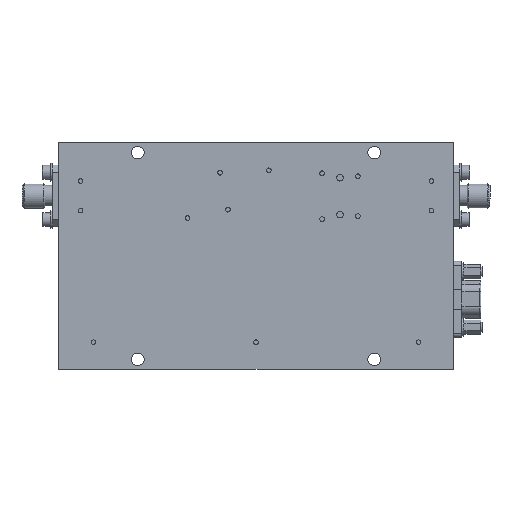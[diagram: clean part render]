
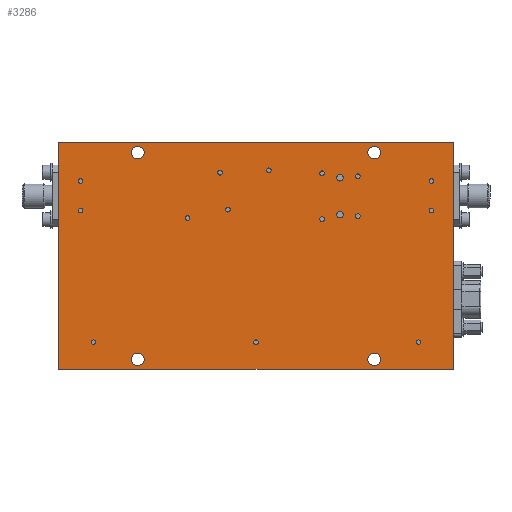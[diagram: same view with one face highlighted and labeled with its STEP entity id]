
A CAD part, front view. The second image highlights one B-rep face of the part: STEP entity #3286.
In plain terms, the highlighted planar face has unit normal (0, -1, 0).
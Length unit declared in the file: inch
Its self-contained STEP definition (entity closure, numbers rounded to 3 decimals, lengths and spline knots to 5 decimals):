
#124=CARTESIAN_POINT('',(3.7565,0.0,1.91));
#125=VERTEX_POINT('',#124);
#126=CARTESIAN_POINT('',(3.78,0.0,1.91));
#127=DIRECTION('',(0.0,1.0,0.0));
#128=DIRECTION('',(1.0,0.0,0.0));
#129=AXIS2_PLACEMENT_3D('',#126,#127,#128);
#130=CIRCLE('',#129,0.0235);
#131=EDGE_CURVE('',#125,#125,#130,.T.);
#152=CARTESIAN_POINT('',(3.0115,0.0,1.555));
#153=VERTEX_POINT('',#152);
#154=CARTESIAN_POINT('',(3.035,0.0,1.555));
#155=DIRECTION('',(0.0,1.0,0.0));
#156=DIRECTION('',(1.0,0.0,0.0));
#157=AXIS2_PLACEMENT_3D('',#154,#155,#156);
#158=CIRCLE('',#157,0.0235);
#159=EDGE_CURVE('',#153,#153,#158,.T.);
#180=CARTESIAN_POINT('',(2.6465,0.0,1.99));
#181=VERTEX_POINT('',#180);
#182=CARTESIAN_POINT('',(2.67,0.0,1.99));
#183=DIRECTION('',(0.0,1.0,0.0));
#184=DIRECTION('',(1.0,0.0,0.0));
#185=AXIS2_PLACEMENT_3D('',#182,#183,#184);
#186=CIRCLE('',#185,0.0235);
#187=EDGE_CURVE('',#181,#181,#186,.T.);
#208=CARTESIAN_POINT('',(1.6115,0.0,1.995));
#209=VERTEX_POINT('',#208);
#210=CARTESIAN_POINT('',(1.635,0.0,1.995));
#211=DIRECTION('',(0.0,1.0,0.0));
#212=DIRECTION('',(1.0,0.0,0.0));
#213=AXIS2_PLACEMENT_3D('',#210,#211,#212);
#214=CIRCLE('',#213,0.0235);
#215=EDGE_CURVE('',#209,#209,#214,.T.);
#236=CARTESIAN_POINT('',(1.2815,0.0,1.535));
#237=VERTEX_POINT('',#236);
#238=CARTESIAN_POINT('',(1.305,0.0,1.535));
#239=DIRECTION('',(0.0,1.0,0.0));
#240=DIRECTION('',(1.0,0.0,0.0));
#241=AXIS2_PLACEMENT_3D('',#238,#239,#240);
#242=CIRCLE('',#241,0.0235);
#243=EDGE_CURVE('',#237,#237,#242,.T.);
#264=CARTESIAN_POINT('',(0.1965,0.0,1.61));
#265=VERTEX_POINT('',#264);
#266=CARTESIAN_POINT('',(0.22,0.0,1.61));
#267=DIRECTION('',(0.0,1.0,0.0));
#268=DIRECTION('',(1.0,0.0,0.0));
#269=AXIS2_PLACEMENT_3D('',#266,#267,#268);
#270=CIRCLE('',#269,0.0235);
#271=EDGE_CURVE('',#265,#265,#270,.T.);
#292=CARTESIAN_POINT('',(1.9765,0.0,0.275));
#293=VERTEX_POINT('',#292);
#294=CARTESIAN_POINT('',(2.,0.0,0.275));
#295=DIRECTION('',(0.0,1.0,0.0));
#296=DIRECTION('',(1.0,0.0,0.0));
#297=AXIS2_PLACEMENT_3D('',#294,#295,#296);
#298=CIRCLE('',#297,0.0235);
#299=EDGE_CURVE('',#293,#293,#298,.T.);
#320=CARTESIAN_POINT('',(0.1965,0.0,1.91));
#321=VERTEX_POINT('',#320);
#322=CARTESIAN_POINT('',(0.22,0.0,1.91));
#323=DIRECTION('',(0.0,1.0,0.0));
#324=DIRECTION('',(1.0,0.0,0.0));
#325=AXIS2_PLACEMENT_3D('',#322,#323,#324);
#326=CIRCLE('',#325,0.0235);
#327=EDGE_CURVE('',#321,#321,#326,.T.);
#348=CARTESIAN_POINT('',(1.6915,0.0,1.62));
#349=VERTEX_POINT('',#348);
#350=CARTESIAN_POINT('',(1.715,0.0,1.62));
#351=DIRECTION('',(0.0,1.0,0.0));
#352=DIRECTION('',(1.0,0.0,0.0));
#353=AXIS2_PLACEMENT_3D('',#350,#351,#352);
#354=CIRCLE('',#353,0.0235);
#355=EDGE_CURVE('',#349,#349,#354,.T.);
#376=CARTESIAN_POINT('',(2.1065,0.0,2.02));
#377=VERTEX_POINT('',#376);
#378=CARTESIAN_POINT('',(2.13,0.0,2.02));
#379=DIRECTION('',(0.0,1.0,0.0));
#380=DIRECTION('',(1.0,0.0,0.0));
#381=AXIS2_PLACEMENT_3D('',#378,#379,#380);
#382=CIRCLE('',#381,0.0235);
#383=EDGE_CURVE('',#377,#377,#382,.T.);
#404=CARTESIAN_POINT('',(2.6465,0.0,1.525));
#405=VERTEX_POINT('',#404);
#406=CARTESIAN_POINT('',(2.67,0.0,1.525));
#407=DIRECTION('',(0.0,1.0,0.0));
#408=DIRECTION('',(1.0,0.0,0.0));
#409=AXIS2_PLACEMENT_3D('',#406,#407,#408);
#410=CIRCLE('',#409,0.0235);
#411=EDGE_CURVE('',#405,#405,#410,.T.);
#432=CARTESIAN_POINT('',(3.0115,0.0,1.96));
#433=VERTEX_POINT('',#432);
#434=CARTESIAN_POINT('',(3.035,0.0,1.96));
#435=DIRECTION('',(0.0,1.0,0.0));
#436=DIRECTION('',(1.0,0.0,0.0));
#437=AXIS2_PLACEMENT_3D('',#434,#435,#436);
#438=CIRCLE('',#437,0.0235);
#439=EDGE_CURVE('',#433,#433,#438,.T.);
#460=CARTESIAN_POINT('',(3.7565,0.0,1.61));
#461=VERTEX_POINT('',#460);
#462=CARTESIAN_POINT('',(3.78,0.0,1.61));
#463=DIRECTION('',(0.0,1.0,0.0));
#464=DIRECTION('',(1.0,0.0,0.0));
#465=AXIS2_PLACEMENT_3D('',#462,#463,#464);
#466=CIRCLE('',#465,0.0235);
#467=EDGE_CURVE('',#461,#461,#466,.T.);
#488=CARTESIAN_POINT('',(3.13517,0.0,2.2));
#489=VERTEX_POINT('',#488);
#490=CARTESIAN_POINT('',(3.19967,0.0,2.2));
#491=DIRECTION('',(0.0,1.0,0.0));
#492=DIRECTION('',(1.0,0.0,0.0));
#493=AXIS2_PLACEMENT_3D('',#490,#491,#492);
#494=CIRCLE('',#493,0.0645);
#495=EDGE_CURVE('',#489,#489,#494,.T.);
#516=CARTESIAN_POINT('',(0.73583,0.0,0.1));
#517=VERTEX_POINT('',#516);
#518=CARTESIAN_POINT('',(0.80033,0.0,0.1));
#519=DIRECTION('',(0.0,1.0,0.0));
#520=DIRECTION('',(1.0,0.0,0.0));
#521=AXIS2_PLACEMENT_3D('',#518,#519,#520);
#522=CIRCLE('',#521,0.0645);
#523=EDGE_CURVE('',#517,#517,#522,.T.);
#544=CARTESIAN_POINT('',(3.13517,0.0,0.1));
#545=VERTEX_POINT('',#544);
#546=CARTESIAN_POINT('',(3.19967,0.0,0.1));
#547=DIRECTION('',(0.0,1.0,0.0));
#548=DIRECTION('',(1.0,0.0,0.0));
#549=AXIS2_PLACEMENT_3D('',#546,#547,#548);
#550=CIRCLE('',#549,0.0645);
#551=EDGE_CURVE('',#545,#545,#550,.T.);
#572=CARTESIAN_POINT('',(0.73583,0.0,2.2));
#573=VERTEX_POINT('',#572);
#574=CARTESIAN_POINT('',(0.80033,0.0,2.2));
#575=DIRECTION('',(0.0,1.0,0.0));
#576=DIRECTION('',(1.0,0.0,0.0));
#577=AXIS2_PLACEMENT_3D('',#574,#575,#576);
#578=CIRCLE('',#577,0.0645);
#579=EDGE_CURVE('',#573,#573,#578,.T.);
#2369=CARTESIAN_POINT('',(0.0,0.0,0.0));
#2370=VERTEX_POINT('',#2369);
#2377=CARTESIAN_POINT('',(0.,0.0,2.3));
#2378=VERTEX_POINT('',#2377);
#2379=CARTESIAN_POINT('',(0.,0.0,2.3));
#2380=DIRECTION('',(0.0,0.0,-1.0));
#2381=VECTOR('',#2380,2.3);
#2382=LINE('',#2379,#2381);
#2383=EDGE_CURVE('',#2378,#2370,#2382,.T.);
#2409=CARTESIAN_POINT('',(4.,0.0,0.0));
#2410=VERTEX_POINT('',#2409);
#2417=CARTESIAN_POINT('',(0.0,0.0,0.0));
#2418=DIRECTION('',(1.0,0.0,0.0));
#2419=VECTOR('',#2418,4.);
#2420=LINE('',#2417,#2419);
#2421=EDGE_CURVE('',#2370,#2410,#2420,.T.);
#2432=CARTESIAN_POINT('',(2.81844,0.0,1.5695));
#2433=VERTEX_POINT('',#2432);
#2434=CARTESIAN_POINT('',(2.85194,0.0,1.5695));
#2435=DIRECTION('',(0.0,1.0,0.0));
#2436=DIRECTION('',(1.0,0.0,0.0));
#2437=AXIS2_PLACEMENT_3D('',#2434,#2435,#2436);
#2438=CIRCLE('',#2437,0.0335);
#2439=EDGE_CURVE('',#2433,#2433,#2438,.T.);
#2460=CARTESIAN_POINT('',(2.81844,0.0,1.9445));
#2461=VERTEX_POINT('',#2460);
#2462=CARTESIAN_POINT('',(2.85194,0.0,1.9445));
#2463=DIRECTION('',(0.0,1.0,0.0));
#2464=DIRECTION('',(1.0,0.0,0.0));
#2465=AXIS2_PLACEMENT_3D('',#2462,#2463,#2464);
#2466=CIRCLE('',#2465,0.0335);
#2467=EDGE_CURVE('',#2461,#2461,#2466,.T.);
#3111=CARTESIAN_POINT('',(0.3265,0.0,0.275));
#3112=VERTEX_POINT('',#3111);
#3113=CARTESIAN_POINT('',(0.35,0.0,0.275));
#3114=DIRECTION('',(0.0,1.0,0.0));
#3115=DIRECTION('',(1.0,0.0,0.0));
#3116=AXIS2_PLACEMENT_3D('',#3113,#3114,#3115);
#3117=CIRCLE('',#3116,0.0235);
#3118=EDGE_CURVE('',#3112,#3112,#3117,.T.);
#3131=CARTESIAN_POINT('',(3.6265,0.0,0.275));
#3132=VERTEX_POINT('',#3131);
#3133=CARTESIAN_POINT('',(3.65,0.0,0.275));
#3134=DIRECTION('',(0.0,1.0,0.0));
#3135=DIRECTION('',(1.0,0.0,0.0));
#3136=AXIS2_PLACEMENT_3D('',#3133,#3134,#3135);
#3137=CIRCLE('',#3136,0.0235);
#3138=EDGE_CURVE('',#3132,#3132,#3137,.T.);
#3152=CARTESIAN_POINT('',(4.,0.0,2.3));
#3153=VERTEX_POINT('',#3152);
#3160=CARTESIAN_POINT('',(4.,0.0,0.0));
#3161=DIRECTION('',(0.0,0.0,1.0));
#3162=VECTOR('',#3161,2.3);
#3163=LINE('',#3160,#3162);
#3164=EDGE_CURVE('',#2410,#3153,#3163,.T.);
#3202=CARTESIAN_POINT('',(4.,0.0,2.3));
#3203=DIRECTION('',(-1.0,0.0,0.0));
#3204=VECTOR('',#3203,4.0);
#3205=LINE('',#3202,#3204);
#3206=EDGE_CURVE('',#3153,#2378,#3205,.T.);
#3212=CARTESIAN_POINT('',(2.0,0.0,1.15));
#3213=DIRECTION('',(0.0,-1.0,0.0));
#3214=DIRECTION('',(0.0,0.0,-1.0));
#3215=AXIS2_PLACEMENT_3D('',#3212,#3213,#3214);
#3216=PLANE('',#3215);
#3217=ORIENTED_EDGE('',*,*,#2421,.T.);
#3218=ORIENTED_EDGE('',*,*,#3164,.T.);
#3219=ORIENTED_EDGE('',*,*,#3206,.T.);
#3220=ORIENTED_EDGE('',*,*,#2383,.T.);
#3221=EDGE_LOOP('',(#3217,#3218,#3219,#3220));
#3222=FACE_OUTER_BOUND('',#3221,.T.);
#3223=ORIENTED_EDGE('',*,*,#131,.T.);
#3224=EDGE_LOOP('',(#3223));
#3225=FACE_BOUND('',#3224,.T.);
#3226=ORIENTED_EDGE('',*,*,#159,.T.);
#3227=EDGE_LOOP('',(#3226));
#3228=FACE_BOUND('',#3227,.T.);
#3229=ORIENTED_EDGE('',*,*,#187,.T.);
#3230=EDGE_LOOP('',(#3229));
#3231=FACE_BOUND('',#3230,.T.);
#3232=ORIENTED_EDGE('',*,*,#215,.T.);
#3233=EDGE_LOOP('',(#3232));
#3234=FACE_BOUND('',#3233,.T.);
#3235=ORIENTED_EDGE('',*,*,#243,.T.);
#3236=EDGE_LOOP('',(#3235));
#3237=FACE_BOUND('',#3236,.T.);
#3238=ORIENTED_EDGE('',*,*,#271,.T.);
#3239=EDGE_LOOP('',(#3238));
#3240=FACE_BOUND('',#3239,.T.);
#3241=ORIENTED_EDGE('',*,*,#299,.T.);
#3242=EDGE_LOOP('',(#3241));
#3243=FACE_BOUND('',#3242,.T.);
#3244=ORIENTED_EDGE('',*,*,#327,.T.);
#3245=EDGE_LOOP('',(#3244));
#3246=FACE_BOUND('',#3245,.T.);
#3247=ORIENTED_EDGE('',*,*,#355,.T.);
#3248=EDGE_LOOP('',(#3247));
#3249=FACE_BOUND('',#3248,.T.);
#3250=ORIENTED_EDGE('',*,*,#383,.T.);
#3251=EDGE_LOOP('',(#3250));
#3252=FACE_BOUND('',#3251,.T.);
#3253=ORIENTED_EDGE('',*,*,#411,.T.);
#3254=EDGE_LOOP('',(#3253));
#3255=FACE_BOUND('',#3254,.T.);
#3256=ORIENTED_EDGE('',*,*,#439,.T.);
#3257=EDGE_LOOP('',(#3256));
#3258=FACE_BOUND('',#3257,.T.);
#3259=ORIENTED_EDGE('',*,*,#467,.T.);
#3260=EDGE_LOOP('',(#3259));
#3261=FACE_BOUND('',#3260,.T.);
#3262=ORIENTED_EDGE('',*,*,#495,.T.);
#3263=EDGE_LOOP('',(#3262));
#3264=FACE_BOUND('',#3263,.T.);
#3265=ORIENTED_EDGE('',*,*,#523,.T.);
#3266=EDGE_LOOP('',(#3265));
#3267=FACE_BOUND('',#3266,.T.);
#3268=ORIENTED_EDGE('',*,*,#551,.T.);
#3269=EDGE_LOOP('',(#3268));
#3270=FACE_BOUND('',#3269,.T.);
#3271=ORIENTED_EDGE('',*,*,#579,.T.);
#3272=EDGE_LOOP('',(#3271));
#3273=FACE_BOUND('',#3272,.T.);
#3274=ORIENTED_EDGE('',*,*,#2439,.T.);
#3275=EDGE_LOOP('',(#3274));
#3276=FACE_BOUND('',#3275,.T.);
#3277=ORIENTED_EDGE('',*,*,#2467,.T.);
#3278=EDGE_LOOP('',(#3277));
#3279=FACE_BOUND('',#3278,.T.);
#3280=ORIENTED_EDGE('',*,*,#3118,.T.);
#3281=EDGE_LOOP('',(#3280));
#3282=FACE_BOUND('',#3281,.T.);
#3283=ORIENTED_EDGE('',*,*,#3138,.T.);
#3284=EDGE_LOOP('',(#3283));
#3285=FACE_BOUND('',#3284,.T.);
#3286=ADVANCED_FACE('',(#3222,#3225,#3228,#3231,#3234,#3237,#3240,#3243,#3246,#3249,#3252,#3255,#3258,#3261,#3264,#3267,#3270,#3273,#3276,#3279,#3282,#3285),#3216,.T.);
